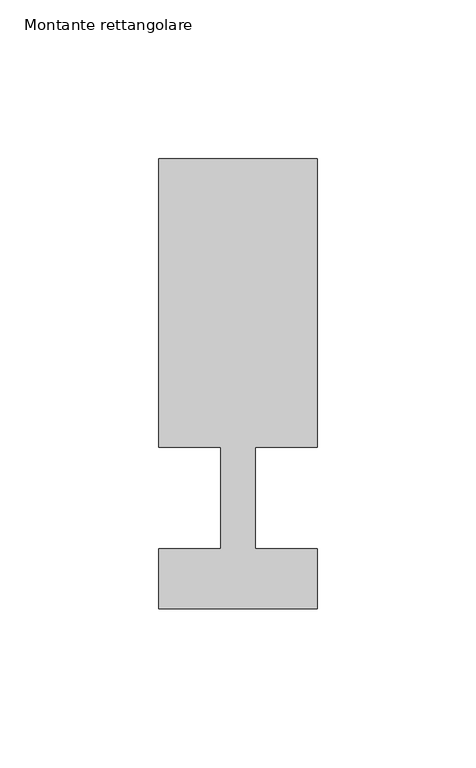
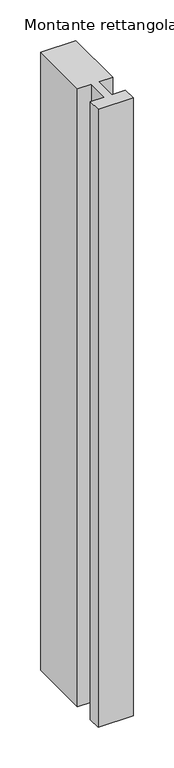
"""IFC4 building model written with IfcOpenShell, lengths in millimetres: member geometry, Montante rettangolare : Aluk_SL50_Montante K731_vetro 32."""

from ifc_helpers import new_model, si_unit, frame, origin, place, context, project, spatial, polyline, outline, extrude, source, transform, mapped, element, save


def montante_rettangolare_a9628414(model_context):
    return source(origin(), model_context, "Body", "SweptSolid", [
        extrude(outline(polyline([(-24.9993567, 107.0), (25.0, 107.0), (25.0, 16.0), (5.5, 16.0), (5.5, -16.0), (24.9705138, -16.0), (24.9705138, -35.0019341), (-25.0435991, -35.0019341), (-25.0435991, -16.0), (-5.5, -16.0), (-5.5, 16.0), (-24.9993567, 16.0), (-24.9993567, 107.0)])), frame((0.0, 0.0, -931.0207963), z_axis=(0.0, 0.0, 1.0), x_axis=(1.0, 0.0, 0.0)), (0.0, 0.0, 1.0), 931.0207963),
    ])


if __name__ == "__main__":
    model = new_model("IFC4")
    model_context = context("Model", 3, world=origin())
    ifc_project = project(units=[si_unit("LENGTHUNIT", "METRE", prefix="MILLI")], contexts=[model_context])
    site = spatial("IfcSite", under=ifc_project)
    building = spatial("IfcBuilding", under=site)
    placement = place(None, origin())
    montante_rettangolare_shape = montante_rettangolare_a9628414(model_context)
    element("IfcMember", 1, ObjectType="Montante rettangolare : Aluk_SL50_Montante K731_vetro 32", at=placement, inside=building, context=model_context, shape_type="MappedRepresentation", body=[
        mapped(montante_rettangolare_shape, transform((0.0, 0.0, 0.0), x_axis=(1.0, 0.0, 0.0), y_axis=(0.0, 1.0, 0.0), z_axis=(0.0, 0.0, 1.0))),
    ])
    save(model, "model.ifc")
